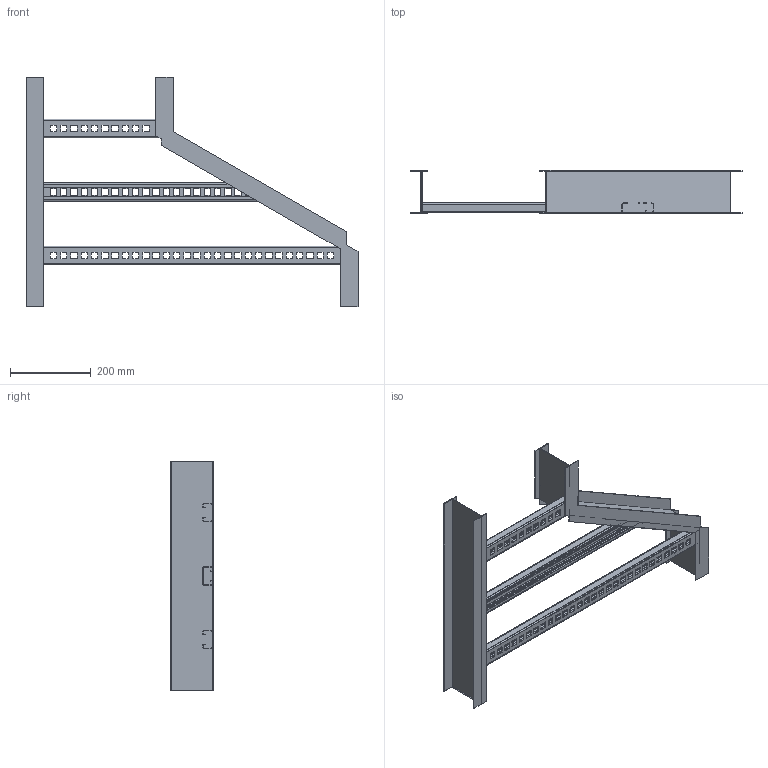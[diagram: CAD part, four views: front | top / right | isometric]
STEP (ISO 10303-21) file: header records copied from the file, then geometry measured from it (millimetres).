
FILE_DESCRIPTION((''),'2;1');
FILE_NAME('AHF63012LHRR_ASM','2010-01-27T',('erouzier'),(''),'PRO/ENGINEER BY PARAMETRIC TECHNOLOGY CORPORATION, 2008510','PRO/ENGINEER BY PARAMETRIC TECHNOLOGY CORPORATION, 2008510','');
FILE_SCHEMA(('CONFIG_CONTROL_DESIGN'));
Length unit declared in the file: inch
Products named in the file (6): CDS013976-6-18; CDS013867-6-180; CDS002159L30-P; CDS002159L24-P_AF1; CDS002159L12-P_AF1; AHF63012LHRR_ASM
Assembly tree (5 placements, depth 2):
  AHF63012LHRR_ASM
    CDS013976-6-18
    CDS013867-6-180
    CDS002159L30-P
    CDS002159L24-P_AF1
    CDS002159L12-P_AF1
Bounding box: 822.2 x 106.43 x 568.76 mm (x, y, z)
Volume: 727679.2 mm3; surface area: 892917.3 mm2
Topology: 5 solids, 5 shells, 611 faces, 1791 edges, 1190 vertices
Faces by surface type: plane 346, cylinder 265
Entity records: 20805 total; most frequent: CARTESIAN_POINT 3693, ORIENTED_EDGE 3582, DIRECTION 3543, EDGE_CURVE 1791, VECTOR 1261, LINE 1261, VERTEX_POINT 1190, AXIS2_PLACEMENT_3D 1141
